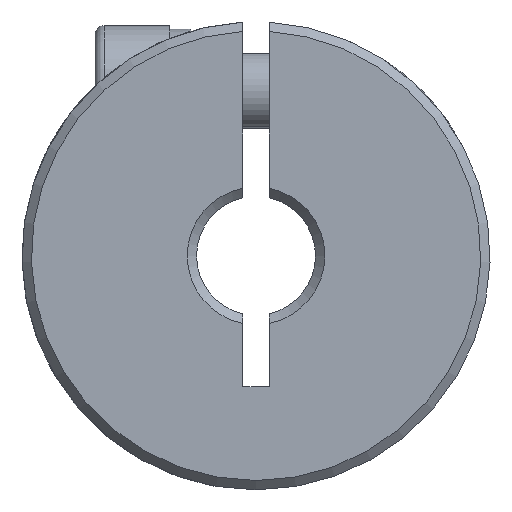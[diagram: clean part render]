
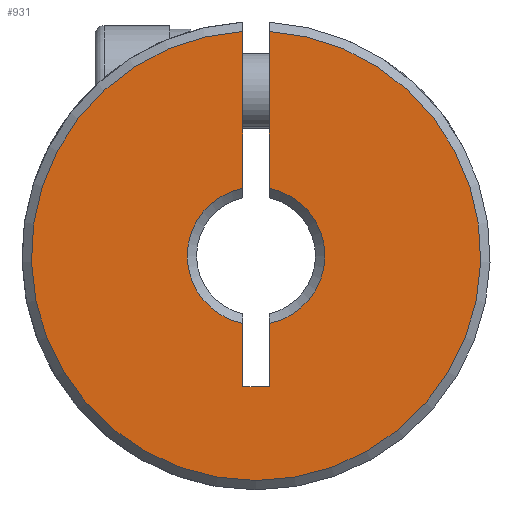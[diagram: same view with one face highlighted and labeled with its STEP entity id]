
A CAD part, front view. The second image highlights one B-rep face of the part: STEP entity #931.
In plain terms, the highlighted planar face has unit normal (0, -1, 0).
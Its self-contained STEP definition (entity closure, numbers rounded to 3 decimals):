
#52 = EDGE_CURVE ( 'NONE', #921, #2969, #551, .T. ) ;
#136 = DIRECTION ( 'NONE',  ( 0., 0., 1. ) ) ;
#153 = FACE_OUTER_BOUND ( 'NONE', #1167, .T. ) ;
#164 = LINE ( 'NONE', #1987, #1879 ) ;
#173 = CARTESIAN_POINT ( 'NONE',  ( 0.7, 0.25, 3.608 ) ) ;
#180 = CARTESIAN_POINT ( 'NONE',  ( -0.7, 0.25, 11.98 ) ) ;
#182 = VECTOR ( 'NONE', #1335, 1000. ) ;
#227 = VERTEX_POINT ( 'NONE', #1931 ) ;
#241 = DIRECTION ( 'NONE',  ( 0., 0., 1. ) ) ;
#376 = LINE ( 'NONE', #3301, #3167 ) ;
#443 = CARTESIAN_POINT ( 'NONE',  ( -0.7, 0.25, -3.608 ) ) ;
#481 = VERTEX_POINT ( 'NONE', #173 ) ;
#504 = CARTESIAN_POINT ( 'NONE',  ( 0., 0.25, 0. ) ) ;
#551 = LINE ( 'NONE', #2877, #182 ) ;
#578 = CARTESIAN_POINT ( 'NONE',  ( -0.7, 0.25, 3.608 ) ) ;
#596 = ORIENTED_EDGE ( 'NONE', *, *, #2489, .F. ) ;
#634 = CARTESIAN_POINT ( 'NONE',  ( 0., 0.25, 0. ) ) ;
#783 = CIRCLE ( 'NONE', #2023, 3.675 ) ;
#832 = EDGE_CURVE ( 'NONE', #921, #2746, #2698, .T. ) ;
#877 = VECTOR ( 'NONE', #1574, 1000. ) ;
#921 = VERTEX_POINT ( 'NONE', #443 ) ;
#931 = ADVANCED_FACE ( 'NONE', ( #153 ), #1488, .F. ) ;
#946 = CARTESIAN_POINT ( 'NONE',  ( 0., 0.25, 0. ) ) ;
#972 = DIRECTION ( 'NONE',  ( 1., 0., 0. ) ) ;
#990 = LINE ( 'NONE', #2505, #2750 ) ;
#1016 = DIRECTION ( 'NONE',  ( 0., 0., 1. ) ) ;
#1071 = AXIS2_PLACEMENT_3D ( 'NONE', #634, #2441, #2971 ) ;
#1167 = EDGE_LOOP ( 'NONE', ( #1185, #1725, #3257, #596, #1249, #2779, #1444, #2042 ) ) ;
#1171 = EDGE_CURVE ( 'NONE', #2218, #2746, #2199, .T. ) ;
#1185 = ORIENTED_EDGE ( 'NONE', *, *, #3162, .F. ) ;
#1226 = DIRECTION ( 'NONE',  ( 0., 0., 1. ) ) ;
#1230 = DIRECTION ( 'NONE',  ( 0., 1., 0. ) ) ;
#1249 = ORIENTED_EDGE ( 'NONE', *, *, #52, .F. ) ;
#1292 = CARTESIAN_POINT ( 'NONE',  ( 0.7, 0.25, -3.608 ) ) ;
#1335 = DIRECTION ( 'NONE',  ( 0., 0., -1. ) ) ;
#1444 = ORIENTED_EDGE ( 'NONE', *, *, #1171, .F. ) ;
#1488 = PLANE ( 'NONE',  #2029 ) ;
#1574 = DIRECTION ( 'NONE',  ( 0., 0., -1. ) ) ;
#1725 = ORIENTED_EDGE ( 'NONE', *, *, #2330, .T. ) ;
#1879 = VECTOR ( 'NONE', #1226, 1000. ) ;
#1906 = DIRECTION ( 'NONE',  ( 0., -1., 0. ) ) ;
#1931 = CARTESIAN_POINT ( 'NONE',  ( 0.7, 0.25, -7. ) ) ;
#1987 = CARTESIAN_POINT ( 'NONE',  ( 0.7, 0.25, -7. ) ) ;
#2023 = AXIS2_PLACEMENT_3D ( 'NONE', #504, #1230, #241 ) ;
#2029 = AXIS2_PLACEMENT_3D ( 'NONE', #2249, #2466, #136 ) ;
#2042 = ORIENTED_EDGE ( 'NONE', *, *, #2208, .T. ) ;
#2120 = VERTEX_POINT ( 'NONE', #1292 ) ;
#2199 = LINE ( 'NONE', #3093, #877 ) ;
#2208 = EDGE_CURVE ( 'NONE', #2218, #2729, #3130, .T. ) ;
#2218 = VERTEX_POINT ( 'NONE', #180 ) ;
#2249 = CARTESIAN_POINT ( 'NONE',  ( 12.5, 0.25, -50. ) ) ;
#2289 = CARTESIAN_POINT ( 'NONE',  ( -0.7, 0.25, -7. ) ) ;
#2330 = EDGE_CURVE ( 'NONE', #481, #2120, #783, .T. ) ;
#2441 = DIRECTION ( 'NONE',  ( 0., 1., 0. ) ) ;
#2444 = AXIS2_PLACEMENT_3D ( 'NONE', #946, #1906, #2738 ) ;
#2455 = EDGE_CURVE ( 'NONE', #227, #2120, #164, .T. ) ;
#2466 = DIRECTION ( 'NONE',  ( 0., 1., 0. ) ) ;
#2489 = EDGE_CURVE ( 'NONE', #2969, #227, #990, .T. ) ;
#2505 = CARTESIAN_POINT ( 'NONE',  ( 0.7, 0.25, -7. ) ) ;
#2625 = CARTESIAN_POINT ( 'NONE',  ( 0.7, 0.25, 11.98 ) ) ;
#2698 = CIRCLE ( 'NONE', #1071, 3.675 ) ;
#2729 = VERTEX_POINT ( 'NONE', #2625 ) ;
#2738 = DIRECTION ( 'NONE',  ( 0., 0., 1. ) ) ;
#2746 = VERTEX_POINT ( 'NONE', #578 ) ;
#2750 = VECTOR ( 'NONE', #972, 1000. ) ;
#2779 = ORIENTED_EDGE ( 'NONE', *, *, #832, .T. ) ;
#2877 = CARTESIAN_POINT ( 'NONE',  ( -0.7, 0.25, -7. ) ) ;
#2969 = VERTEX_POINT ( 'NONE', #2289 ) ;
#2971 = DIRECTION ( 'NONE',  ( 0., 0., 1. ) ) ;
#3093 = CARTESIAN_POINT ( 'NONE',  ( -0.7, 0.25, -7. ) ) ;
#3130 = CIRCLE ( 'NONE', #2444, 12. ) ;
#3162 = EDGE_CURVE ( 'NONE', #481, #2729, #376, .T. ) ;
#3167 = VECTOR ( 'NONE', #1016, 1000. ) ;
#3257 = ORIENTED_EDGE ( 'NONE', *, *, #2455, .F. ) ;
#3301 = CARTESIAN_POINT ( 'NONE',  ( 0.7, 0.25, -7. ) ) ;
